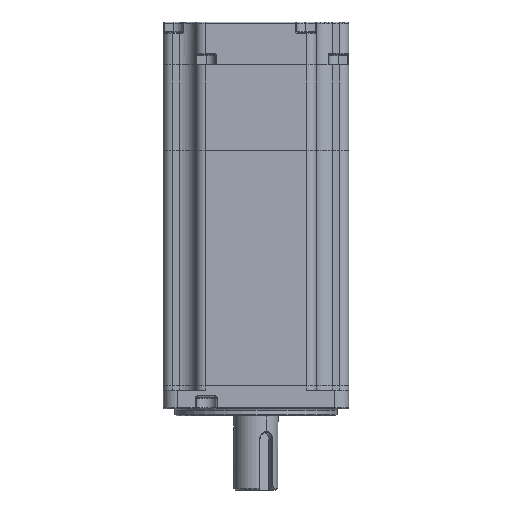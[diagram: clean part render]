
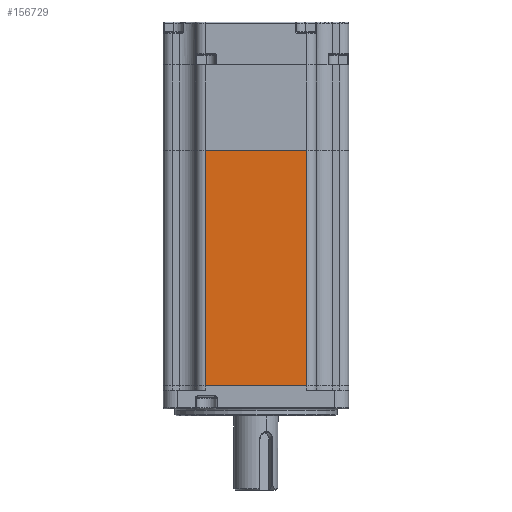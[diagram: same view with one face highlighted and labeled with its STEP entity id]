
A CAD part, left-side view. The second image highlights one B-rep face of the part: STEP entity #156729.
In plain terms, the highlighted planar face has unit normal (-1, 0, 0).
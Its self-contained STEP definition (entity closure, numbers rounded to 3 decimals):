
#1825 = VECTOR ( 'NONE', #153555, 1000. ) ;
#11555 = VERTEX_POINT ( 'NONE', #156692 ) ;
#13958 = VECTOR ( 'NONE', #36480, 1000. ) ;
#17517 = ORIENTED_EDGE ( 'NONE', *, *, #141093, .F. ) ;
#22990 = ORIENTED_EDGE ( 'NONE', *, *, #63638, .T. ) ;
#23387 = CARTESIAN_POINT ( 'NONE',  ( -40., -22., 0. ) ) ;
#28330 = LINE ( 'NONE', #23387, #13958 ) ;
#36480 = DIRECTION ( 'NONE',  ( 0., -1., 0. ) ) ;
#37137 = DIRECTION ( 'NONE',  ( 0., -1., 0. ) ) ;
#39254 = LINE ( 'NONE', #116071, #161984 ) ;
#40284 = CARTESIAN_POINT ( 'NONE',  ( -40., 22., 0. ) ) ;
#44021 = ORIENTED_EDGE ( 'NONE', *, *, #157789, .F. ) ;
#54115 = VECTOR ( 'NONE', #130488, 1000. ) ;
#57069 = LINE ( 'NONE', #72434, #1825 ) ;
#61258 = ORIENTED_EDGE ( 'NONE', *, *, #122084, .T. ) ;
#63638 = EDGE_CURVE ( 'NONE', #131909, #127974, #57069, .T. ) ;
#72434 = CARTESIAN_POINT ( 'NONE',  ( -40., 22., 101.5 ) ) ;
#88886 = LINE ( 'NONE', #156143, #54115 ) ;
#89864 = PLANE ( 'NONE',  #166241 ) ;
#108968 = CARTESIAN_POINT ( 'NONE',  ( -40., -22., 101.5 ) ) ;
#113485 = EDGE_LOOP ( 'NONE', ( #61258, #44021, #17517, #22990 ) ) ;
#115690 = CARTESIAN_POINT ( 'NONE',  ( -40., -22., 101.5 ) ) ;
#116071 = CARTESIAN_POINT ( 'NONE',  ( -40., -22., 101.5 ) ) ;
#122084 = EDGE_CURVE ( 'NONE', #127974, #11555, #28330, .T. ) ;
#127974 = VERTEX_POINT ( 'NONE', #40284 ) ;
#128285 = DIRECTION ( 'NONE',  ( 1., 0., 0. ) ) ;
#130488 = DIRECTION ( 'NONE',  ( 0., 0., -1. ) ) ;
#131909 = VERTEX_POINT ( 'NONE', #153557 ) ;
#140809 = FACE_OUTER_BOUND ( 'NONE', #113485, .T. ) ;
#141093 = EDGE_CURVE ( 'NONE', #131909, #168878, #39254, .T. ) ;
#153555 = DIRECTION ( 'NONE',  ( 0., 0., -1. ) ) ;
#153557 = CARTESIAN_POINT ( 'NONE',  ( -40., 22., 101.5 ) ) ;
#155090 = DIRECTION ( 'NONE',  ( 0., 0., -1. ) ) ;
#156143 = CARTESIAN_POINT ( 'NONE',  ( -40., -22., 101.5 ) ) ;
#156692 = CARTESIAN_POINT ( 'NONE',  ( -40., -22., 0. ) ) ;
#156729 = ADVANCED_FACE ( 'NONE', ( #140809 ), #89864, .F. ) ;
#157789 = EDGE_CURVE ( 'NONE', #168878, #11555, #88886, .T. ) ;
#161984 = VECTOR ( 'NONE', #37137, 1000. ) ;
#166241 = AXIS2_PLACEMENT_3D ( 'NONE', #115690, #128285, #155090 ) ;
#168878 = VERTEX_POINT ( 'NONE', #108968 ) ;
